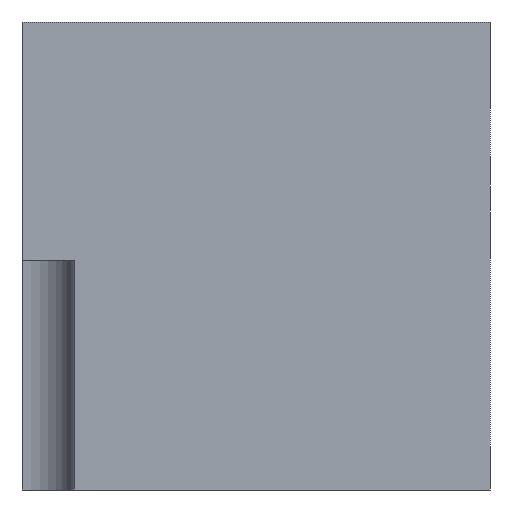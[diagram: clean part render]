
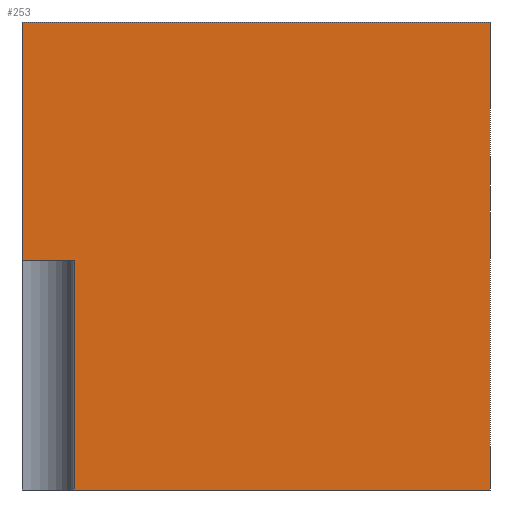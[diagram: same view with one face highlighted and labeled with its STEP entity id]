
A CAD part, front view. The second image highlights one B-rep face of the part: STEP entity #253.
In plain terms, the highlighted planar face has unit normal (0, -1, 0).
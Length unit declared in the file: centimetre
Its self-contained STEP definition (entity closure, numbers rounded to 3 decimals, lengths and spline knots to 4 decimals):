
#3 = DIRECTION ( 'NONE',  ( 0., 0., -1. ) ) ;
#10 = DIRECTION ( 'NONE',  ( 1., 0., 0. ) ) ;
#63 = EDGE_CURVE ( 'NONE', #555, #903, #954, .T. ) ;
#105 = VECTOR ( 'NONE', #10, 100. ) ;
#108 = CARTESIAN_POINT ( 'NONE',  ( 1000., 0., 1000. ) ) ;
#120 = VECTOR ( 'NONE', #739, 100. ) ;
#135 = VECTOR ( 'NONE', #3, 100. ) ;
#162 = FACE_OUTER_BOUND ( 'NONE', #759, .T. ) ;
#174 = PLANE ( 'NONE',  #871 ) ;
#181 = EDGE_CURVE ( 'NONE', #439, #272, #667, .T. ) ;
#184 = CARTESIAN_POINT ( 'NONE',  ( 111.5807, 0., 489.8402 ) ) ;
#219 = CARTESIAN_POINT ( 'NONE',  ( 111.5807, 0., 489.8402 ) ) ;
#253 = ADVANCED_FACE ( 'NONE', ( #162 ), #174, .F. ) ;
#272 = VERTEX_POINT ( 'NONE', #311 ) ;
#297 = VERTEX_POINT ( 'NONE', #846 ) ;
#311 = CARTESIAN_POINT ( 'NONE',  ( 111.5807, 0., 0. ) ) ;
#319 = CARTESIAN_POINT ( 'NONE',  ( 0., 0., 1000. ) ) ;
#338 = LINE ( 'NONE', #108, #631 ) ;
#346 = CARTESIAN_POINT ( 'NONE',  ( 0., 0., 1000. ) ) ;
#439 = VERTEX_POINT ( 'NONE', #184 ) ;
#456 = DIRECTION ( 'NONE',  ( 0., 0., 1. ) ) ;
#463 = CARTESIAN_POINT ( 'NONE',  ( 0., 0., 0. ) ) ;
#496 = EDGE_CURVE ( 'NONE', #903, #550, #338, .T. ) ;
#530 = DIRECTION ( 'NONE',  ( 0., 1., 0. ) ) ;
#532 = VECTOR ( 'NONE', #914, 100. ) ;
#537 = LINE ( 'NONE', #319, #135 ) ;
#545 = ORIENTED_EDGE ( 'NONE', *, *, #789, .T. ) ;
#550 = VERTEX_POINT ( 'NONE', #561 ) ;
#555 = VERTEX_POINT ( 'NONE', #884 ) ;
#561 = CARTESIAN_POINT ( 'NONE',  ( 1000., 0., 0. ) ) ;
#583 = VECTOR ( 'NONE', #990, 100. ) ;
#599 = ORIENTED_EDGE ( 'NONE', *, *, #63, .F. ) ;
#631 = VECTOR ( 'NONE', #939, 100. ) ;
#667 = LINE ( 'NONE', #219, #583 ) ;
#739 = DIRECTION ( 'NONE',  ( 1., 0., 0. ) ) ;
#742 = ORIENTED_EDGE ( 'NONE', *, *, #181, .T. ) ;
#759 = EDGE_LOOP ( 'NONE', ( #907, #742, #545, #885, #599, #854 ) ) ;
#762 = EDGE_CURVE ( 'NONE', #555, #297, #537, .T. ) ;
#774 = CARTESIAN_POINT ( 'NONE',  ( 0., 0., 1000. ) ) ;
#784 = LINE ( 'NONE', #463, #105 ) ;
#789 = EDGE_CURVE ( 'NONE', #272, #550, #784, .T. ) ;
#794 = EDGE_CURVE ( 'NONE', #439, #297, #926, .T. ) ;
#844 = CARTESIAN_POINT ( 'NONE',  ( 0., 0., 489.8402 ) ) ;
#846 = CARTESIAN_POINT ( 'NONE',  ( 0., 0., 489.8402 ) ) ;
#854 = ORIENTED_EDGE ( 'NONE', *, *, #762, .T. ) ;
#871 = AXIS2_PLACEMENT_3D ( 'NONE', #774, #530, #456 ) ;
#884 = CARTESIAN_POINT ( 'NONE',  ( 0., 0., 1000. ) ) ;
#885 = ORIENTED_EDGE ( 'NONE', *, *, #496, .F. ) ;
#903 = VERTEX_POINT ( 'NONE', #938 ) ;
#907 = ORIENTED_EDGE ( 'NONE', *, *, #794, .F. ) ;
#914 = DIRECTION ( 'NONE',  ( -1., 0., 0. ) ) ;
#926 = LINE ( 'NONE', #844, #532 ) ;
#938 = CARTESIAN_POINT ( 'NONE',  ( 1000., 0., 1000. ) ) ;
#939 = DIRECTION ( 'NONE',  ( 0., 0., -1. ) ) ;
#954 = LINE ( 'NONE', #346, #120 ) ;
#990 = DIRECTION ( 'NONE',  ( 0., 0., -1. ) ) ;
